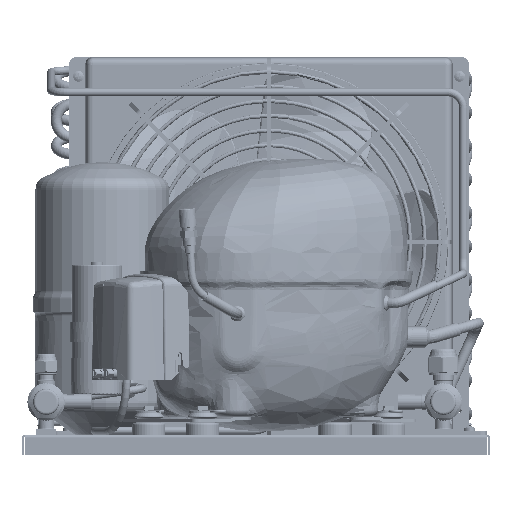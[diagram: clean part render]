
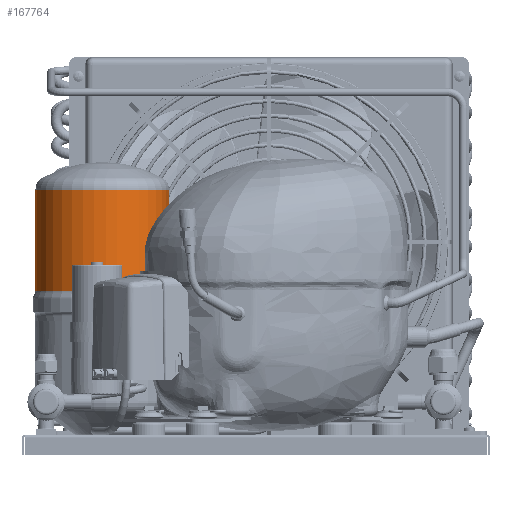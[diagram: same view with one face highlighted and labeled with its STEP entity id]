
A CAD part, front view. The second image highlights one B-rep face of the part: STEP entity #167764.
In plain terms, the highlighted cylindrical face has radius 50 mm (diameter 100 mm), a full revolution.
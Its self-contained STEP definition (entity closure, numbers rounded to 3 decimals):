
#4113=B_SPLINE_CURVE_WITH_KNOTS('',3,(#315335,#315336,#315337,#315338,#315339,
#315340,#315341,#315342,#315343,#315344,#315345,#315346,#315347,#315348,
#315349,#315350,#315351,#315352,#315353,#315354,#315355,#315356,#315357,
#315358,#315359,#315360,#315361,#315362,#315363),.UNSPECIFIED.,.T.,.F.,
(1,1,1,1,1,1,1,1,1,1,1,1,1,1,1,1,1,1,1,1,1,1,1,1,1,1,1,1,1,1,1,1,1),(-0.128,
-0.066,-0.033,0.,0.059,0.091,0.122,
0.184,0.215,0.247,0.309,0.34,
0.372,0.434,0.497,0.5,
0.53,0.559,0.591,0.622,
0.684,0.715,0.747,0.778,
0.809,0.84,0.872,0.934,
0.967,1.,1.059,1.091,1.122),.UNSPECIFIED.);
#41302=CYLINDRICAL_SURFACE('',#178692,50.);
#44412=CIRCLE('',#178693,50.);
#44413=CIRCLE('',#178694,50.);
#65913=ORIENTED_EDGE('',*,*,#96156,.T.);
#65914=ORIENTED_EDGE('',*,*,#96157,.T.);
#65915=ORIENTED_EDGE('',*,*,#96158,.T.);
#96156=EDGE_CURVE('',#112921,#112921,#44412,.F.);
#96157=EDGE_CURVE('',#112922,#112922,#4113,.T.);
#96158=EDGE_CURVE('',#112923,#112923,#44413,.T.);
#112921=VERTEX_POINT('',#315334);
#112922=VERTEX_POINT('',#315364);
#112923=VERTEX_POINT('',#315366);
#142652=EDGE_LOOP('',(#65913));
#142653=EDGE_LOOP('',(#65914));
#142654=EDGE_LOOP('',(#65915));
#153362=FACE_BOUND('',#142652,.T.);
#153363=FACE_BOUND('',#142653,.T.);
#153364=FACE_BOUND('',#142654,.T.);
#167764=ADVANCED_FACE('',(#153362,#153363,#153364),#41302,.T.);
#178692=AXIS2_PLACEMENT_3D('',#315332,#201256,#201257);
#178693=AXIS2_PLACEMENT_3D('',#315333,#201258,#201259);
#178694=AXIS2_PLACEMENT_3D('',#315365,#201260,#201261);
#201256=DIRECTION('',(0.,0.,-1.));
#201257=DIRECTION('',(-1.,0.,0.));
#201258=DIRECTION('',(0.,0.,-1.));
#201259=DIRECTION('',(-1.,0.,0.));
#201260=DIRECTION('',(0.,0.,-1.));
#201261=DIRECTION('',(-1.,0.,0.));
#315332=CARTESIAN_POINT('',(0.,0.,-11.));
#315333=CARTESIAN_POINT('',(0.,0.,107.849));
#315334=CARTESIAN_POINT('',(-50.,0.,107.849));
#315335=CARTESIAN_POINT('',(-49.98,1.706,178.875));
#315336=CARTESIAN_POINT('',(-50.018,-0.456,179.116));
#315337=CARTESIAN_POINT('',(-49.95,-2.604,178.671));
#315338=CARTESIAN_POINT('',(-49.8,-4.535,177.616));
#315339=CARTESIAN_POINT('',(-49.621,-6.235,176.171));
#315340=CARTESIAN_POINT('',(-49.438,-7.497,174.214));
#315341=CARTESIAN_POINT('',(-49.325,-8.192,171.93));
#315342=CARTESIAN_POINT('',(-49.28,-8.45,169.606));
#315343=CARTESIAN_POINT('',(-49.349,-8.059,167.251));
#315344=CARTESIAN_POINT('',(-49.502,-7.059,165.111));
#315345=CARTESIAN_POINT('',(-49.681,-5.722,163.275));
#315346=CARTESIAN_POINT('',(-49.912,-3.443,161.549));
#315347=CARTESIAN_POINT('',(-49.998,-1.227,161.013));
#315348=CARTESIAN_POINT('',(-50.001,0.471,160.994));
#315349=CARTESIAN_POINT('',(-49.984,1.543,161.103));
#315350=CARTESIAN_POINT('',(-49.913,3.082,161.587));
#315351=CARTESIAN_POINT('',(-49.8,4.538,162.384));
#315352=CARTESIAN_POINT('',(-49.621,6.236,163.83));
#315353=CARTESIAN_POINT('',(-49.438,7.495,165.787));
#315354=CARTESIAN_POINT('',(-49.325,8.193,168.074));
#315355=CARTESIAN_POINT('',(-49.292,8.384,169.817));
#315356=CARTESIAN_POINT('',(-49.313,8.259,171.577));
#315357=CARTESIAN_POINT('',(-49.389,7.803,173.293));
#315358=CARTESIAN_POINT('',(-49.503,7.054,174.896));
#315359=CARTESIAN_POINT('',(-49.682,5.713,176.735));
#315360=CARTESIAN_POINT('',(-49.869,3.878,178.115));
#315361=CARTESIAN_POINT('',(-49.98,1.706,178.875));
#315362=CARTESIAN_POINT('',(-50.018,-0.456,179.116));
#315363=CARTESIAN_POINT('',(-49.95,-2.604,178.671));
#315364=CARTESIAN_POINT('',(-50.,0.,179.));
#315365=CARTESIAN_POINT('',(0.,0.,183.409));
#315366=CARTESIAN_POINT('',(-50.,0.,183.409));
